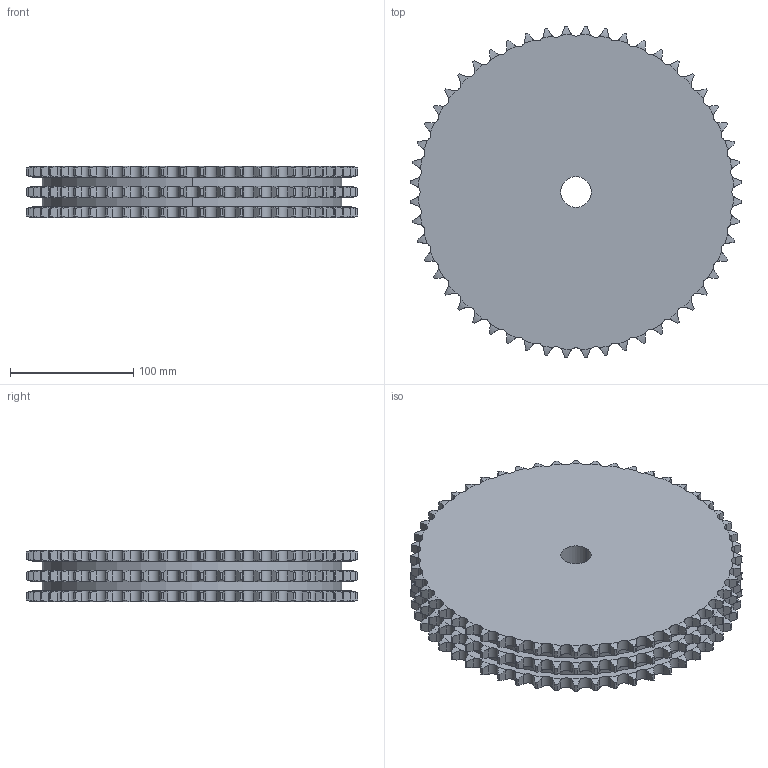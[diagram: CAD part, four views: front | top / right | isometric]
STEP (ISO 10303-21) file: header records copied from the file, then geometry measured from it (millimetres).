
FILE_DESCRIPTION((''),'2;1');
FILE_NAME('500-303-0052_PRT','2021-02-12T',('Brieden'),('Brieden'),'PRO/ENGINEER BY PARAMETRIC TECHNOLOGY CORPORATION, 2010160','PRO/ENGINEER BY PARAMETRIC TECHNOLOGY CORPORATION, 2010160','');
FILE_SCHEMA(('AUTOMOTIVE_DESIGN { 1 0 10303 214 1 1 1 1 }'));
Length unit declared in the file: millimetre
Products named in the file (1): 500-303-0052_PRT
Bounding box: 268.73 x 268.73 x 42.1 mm (x, y, z)
Volume: 2098489.3 mm3; surface area: 176100.4 mm2
Topology: 1 solids, 1 shells, 948 faces, 2826 edges, 1884 vertices
Faces by surface type: cylinder 630, torus 312, plane 6
Entity records: 46812 total; most frequent: CARTESIAN_POINT 14319, ORIENTED_EDGE 5652, DIRECTION 4422, PRESENTATION_STYLE_ASSIGNMENT 2827, STYLED_ITEM 2827, CURVE_STYLE 2826, EDGE_CURVE 2826, AXIS2_PLACEMENT_3D 1896
